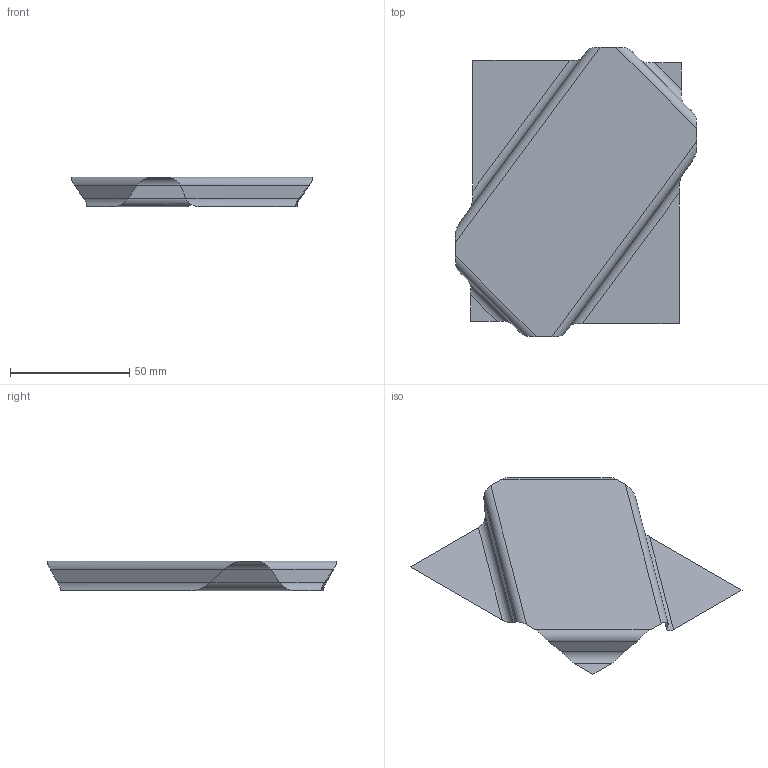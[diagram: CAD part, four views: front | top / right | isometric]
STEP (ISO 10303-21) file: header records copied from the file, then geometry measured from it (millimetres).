
FILE_DESCRIPTION(('CATIA V5 STEP Exchange'),'2;1');
FILE_NAME('C:\_Andres\UNIVERSIDAD\IQS\ASIGNATURAS\DAO\EXF\EXF-15161c\1original\Gual_Moseguí_Ej03-chapa_v11.stp','2016-03-04T16:55:51+00:00',('none'),('none'),'CATIA Version 5 Release 20 SP 1 (IN-10)','CATIA V5 STEP AP203','none');
FILE_SCHEMA(('CONFIG_CONTROL_DESIGN'));
Length unit declared in the file: millimetre
Products named in the file (1): Gual_Moseguí_Ej03-chapa_v11
Bounding box: 101.01 x 121.01 x 12.29 mm (x, y, z)
Surface area: 12261.6 mm2 (no closed solid volume)
Topology: 0 solids, 1 shells, 17 faces, 52 edges, 36 vertices
Faces by surface type: plane 9, cylinder 8
Entity records: 627 total; most frequent: CARTESIAN_POINT 198, ORIENTED_EDGE 68, DIRECTION 61, EDGE_CURVE 52, VERTEX_POINT 36, B_SPLINE_CURVE_WITH_KNOTS 27, VECTOR 25, LINE 25
